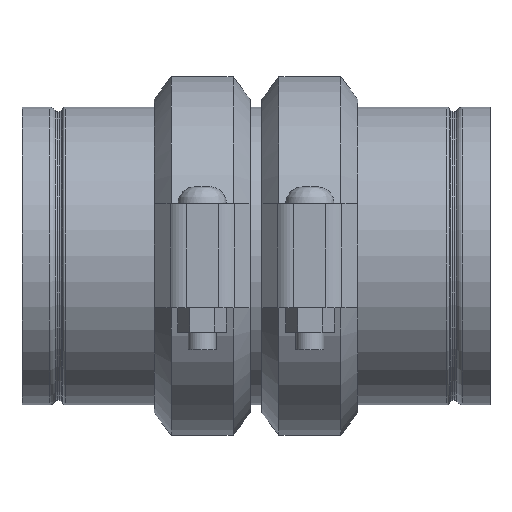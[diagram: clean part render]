
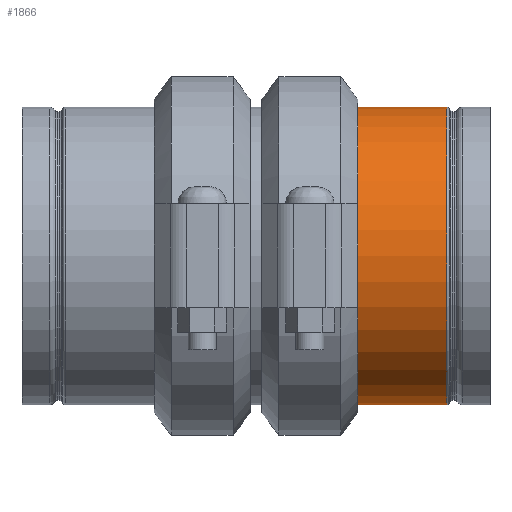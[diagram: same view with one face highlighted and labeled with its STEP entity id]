
A CAD part, top view. The second image highlights one B-rep face of the part: STEP entity #1866.
In plain terms, the highlighted cylindrical face has radius 84.138 mm (diameter 168.275 mm), a full revolution.
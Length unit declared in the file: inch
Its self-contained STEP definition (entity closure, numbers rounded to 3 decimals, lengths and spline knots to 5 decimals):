
#62=LINE('',#3062,#159);
#159=VECTOR('',#2451,3.3125);
#256=CYLINDRICAL_SURFACE('',#2106,3.3125);
#366=FACE_OUTER_BOUND('',#469,.T.);
#469=EDGE_LOOP('',(#1293,#1294,#1295,#1296,#1297,#1298,#1299,#1300));
#618=CIRCLE('',#2102,3.3125);
#619=CIRCLE('',#2103,3.3125);
#621=CIRCLE('',#2105,3.3125);
#622=CIRCLE('',#2107,3.3125);
#623=CIRCLE('',#2108,3.3125);
#624=CIRCLE('',#2109,3.3125);
#775=VERTEX_POINT('',#3049);
#776=VERTEX_POINT('',#3050);
#777=VERTEX_POINT('',#3052);
#778=VERTEX_POINT('',#3057);
#779=VERTEX_POINT('',#3058);
#780=VERTEX_POINT('',#3060);
#978=EDGE_CURVE('',#775,#776,#618,.T.);
#979=EDGE_CURVE('',#776,#777,#619,.T.);
#981=EDGE_CURVE('',#777,#775,#621,.T.);
#982=EDGE_CURVE('',#778,#779,#622,.T.);
#983=EDGE_CURVE('',#780,#778,#623,.T.);
#984=EDGE_CURVE('',#780,#776,#62,.T.);
#985=EDGE_CURVE('',#779,#780,#624,.T.);
#1293=ORIENTED_EDGE('',*,*,#982,.F.);
#1294=ORIENTED_EDGE('',*,*,#983,.F.);
#1295=ORIENTED_EDGE('',*,*,#984,.T.);
#1296=ORIENTED_EDGE('',*,*,#978,.F.);
#1297=ORIENTED_EDGE('',*,*,#981,.F.);
#1298=ORIENTED_EDGE('',*,*,#979,.F.);
#1299=ORIENTED_EDGE('',*,*,#984,.F.);
#1300=ORIENTED_EDGE('',*,*,#985,.F.);
#1866=ADVANCED_FACE('',(#366),#256,.T.);
#2102=AXIS2_PLACEMENT_3D('',#3051,#2437,#2438);
#2103=AXIS2_PLACEMENT_3D('',#3053,#2439,#2440);
#2105=AXIS2_PLACEMENT_3D('',#3055,#2443,#2444);
#2106=AXIS2_PLACEMENT_3D('',#3056,#2445,#2446);
#2107=AXIS2_PLACEMENT_3D('',#3059,#2447,#2448);
#2108=AXIS2_PLACEMENT_3D('',#3061,#2449,#2450);
#2109=AXIS2_PLACEMENT_3D('',#3063,#2452,#2453);
#2437=DIRECTION('center_axis',(-1.,0.,0.));
#2438=DIRECTION('ref_axis',(0.,-1.,0.));
#2439=DIRECTION('center_axis',(-1.,0.,0.));
#2440=DIRECTION('ref_axis',(0.,-1.,0.));
#2443=DIRECTION('center_axis',(-1.,0.,0.));
#2444=DIRECTION('ref_axis',(0.,-1.,0.));
#2445=DIRECTION('center_axis',(1.,0.,0.));
#2446=DIRECTION('ref_axis',(0.,1.,0.));
#2447=DIRECTION('center_axis',(1.,0.,0.));
#2448=DIRECTION('ref_axis',(0.,-1.,0.));
#2449=DIRECTION('center_axis',(1.,0.,0.));
#2450=DIRECTION('ref_axis',(0.,-1.,0.));
#2451=DIRECTION('',(-1.,0.,0.));
#2452=DIRECTION('center_axis',(1.,0.,0.));
#2453=DIRECTION('ref_axis',(0.,-1.,0.));
#3049=CARTESIAN_POINT('',(0.999,3.3125,0.));
#3050=CARTESIAN_POINT('',(0.999,-3.3125,0.));
#3051=CARTESIAN_POINT('Origin',(0.999,0.,0.));
#3052=CARTESIAN_POINT('',(0.999,0.,3.3125));
#3053=CARTESIAN_POINT('Origin',(0.999,0.,0.));
#3055=CARTESIAN_POINT('Origin',(0.999,0.,0.));
#3056=CARTESIAN_POINT('Origin',(2.02001,0.,0.));
#3057=CARTESIAN_POINT('',(3.0398,3.3125,0.));
#3058=CARTESIAN_POINT('',(3.0398,0.,3.3125));
#3059=CARTESIAN_POINT('Origin',(3.0398,0.,0.));
#3060=CARTESIAN_POINT('',(3.0398,-3.3125,0.));
#3061=CARTESIAN_POINT('Origin',(3.0398,0.,0.));
#3062=CARTESIAN_POINT('',(2.02001,-3.3125,0.));
#3063=CARTESIAN_POINT('Origin',(3.0398,0.,0.));
